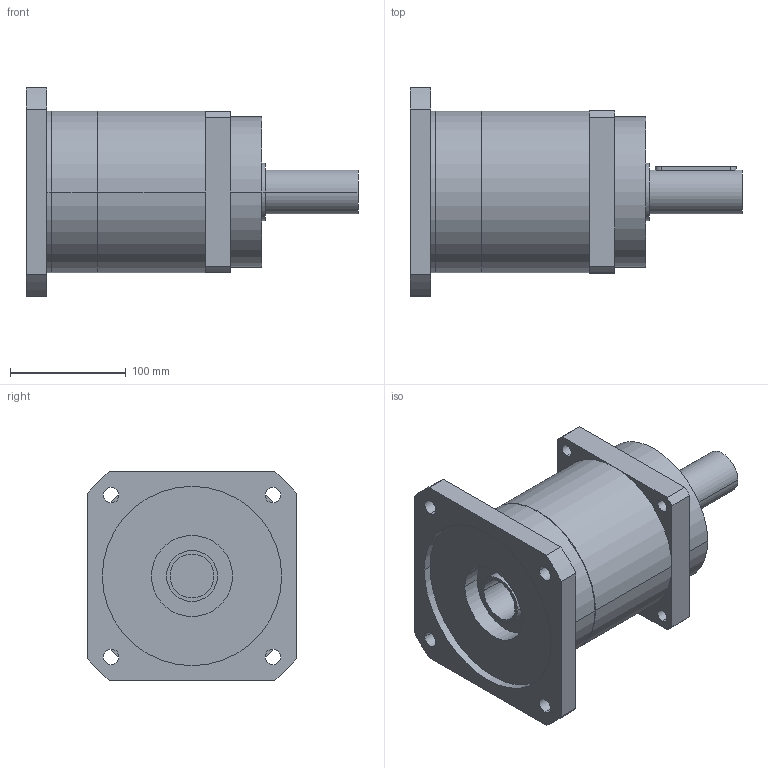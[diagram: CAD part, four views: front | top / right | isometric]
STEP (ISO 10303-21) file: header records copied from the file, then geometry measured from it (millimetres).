
FILE_DESCRIPTION(('CoCreate Modeling STEP Export'),'2;1');
FILE_NAME('GPR150_ig-3-4-5-7_38_B5_38_P11.stp','2014-08-19T16:43:33',(''),(''),'CoCreate Modeling STEP processor for AP214 (Solid Model)','CoCreate Modeling 16.00C 25-Feb-2009 (C) Parametric Technology GmbH','');
FILE_SCHEMA(('AUTOMOTIVE_DESIGN { 1 0 10303 214 1 1 1 1 }'));
Length unit declared in the file: millimetre
Products named in the file (2): GPR150_ig-3-4-5-7_38_B5_38_P11
Assembly tree (1 placements, depth 2):
  GPR150_ig-3-4-5-7_38_B5_38_P11
    GPR150_ig-3-4-5-7_38_B5_38_P11
Bounding box: 287 x 180 x 180 mm (x, y, z)
Volume: 3283018.4 mm3; surface area: 199841.8 mm2
Topology: 1 solids, 1 shells, 81 faces, 221 edges, 151 vertices
Faces by surface type: cylinder 48, plane 27, cone 6
Entity records: 2330 total; most frequent: ORIENTED_EDGE 438, CARTESIAN_POINT 432, DIRECTION 330, EDGE_CURVE 219, VERTEX_POINT 151, AXIS2_PLACEMENT_3D 121, EDGE_LOOP 108, VECTOR 88
